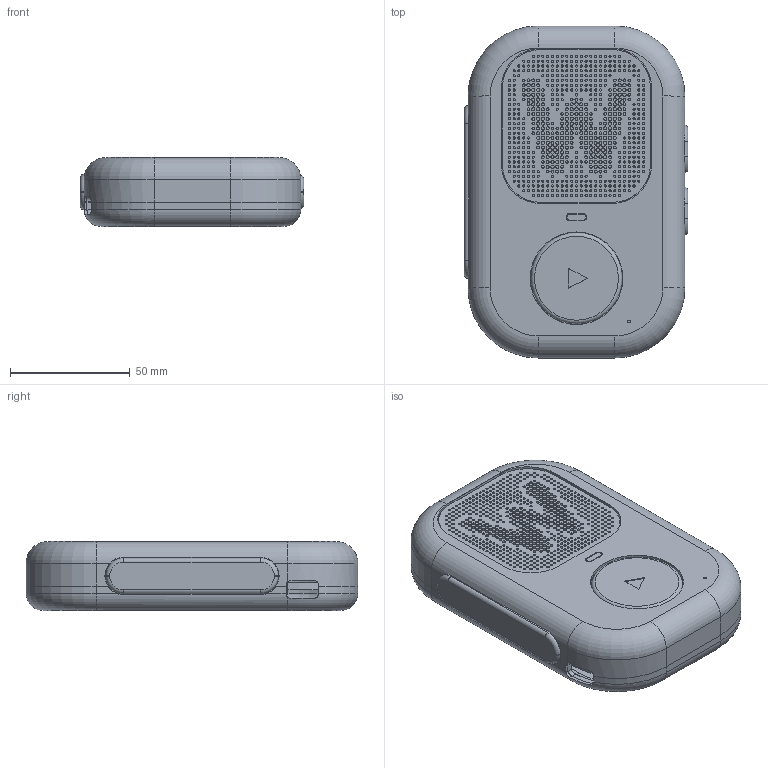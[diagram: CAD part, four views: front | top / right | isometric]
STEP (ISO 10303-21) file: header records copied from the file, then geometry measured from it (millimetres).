
FILE_DESCRIPTION(/* description */ (''),/* implementation_level */ '2;1');
FILE_NAME(/* name */ 'Walkie_One_25_2_R1.step',/* time_stamp */ '2026-09-08T11:10:44-07:00',/* author */ (''),/* organization */ (''),/* preprocessor_version */ 'ST-DEVELOPER v20.1',/* originating_system */ 'Autodesk Translation Framework v15.8.0.0',/* authorisation */ '');
FILE_SCHEMA (('AUTOMOTIVE_DESIGN { 1 0 10303 214 3 1 1 }'));
Length unit declared in the file: centimetre
Products named in the file (15): 2026-09-08-11-10-29-672; 2026-09-08-11-10-29-782; 2026-09-08-11-10-30-391; 2026-09-08-11-10-32-289; 2026-09-08-11-10-32-713; 2026-09-08-11-10-32-897; 2026-09-08-11-10-33-663; 2026-09-08-11-10-33-877; 2026-09-08-11-10-39-665; 2026-09-08-11-10-39-844; 2026-09-08-11-10-40-087; 2026-09-08-11-10-40-640; 2026-09-08-11-10-40-789; 2026-09-08-11-10-41-055; 2026-09-08-11-10-41-421
Assembly tree (14 placements, depth 2):
  2026-09-08-11-10-29-672
    2026-09-08-11-10-29-782
    2026-09-08-11-10-30-391
    2026-09-08-11-10-32-289
    2026-09-08-11-10-32-713
    2026-09-08-11-10-32-897
    2026-09-08-11-10-33-663
    2026-09-08-11-10-33-877
    2026-09-08-11-10-39-665
    2026-09-08-11-10-39-844
    2026-09-08-11-10-40-087
    2026-09-08-11-10-40-640
    2026-09-08-11-10-40-789
    2026-09-08-11-10-41-055
    2026-09-08-11-10-41-421
Bounding box: 93.2 x 138.4 x 28.8 mm (x, y, z)
Volume: 94299.2 mm3; surface area: 130718.7 mm2
Topology: 17 solids, 17 shells, 1509 faces, 4286 edges, 2829 vertices
Faces by surface type: cylinder 938, plane 526, torus 45
Full cylindrical faces by diameter (mm): 0.9 x452, 1.1 x85, 1.2 x2, 1.25 x73, 1.4 x111, 2.4 x2, 3 x1, 4 x1, 38 x1, 38.6 x2, 40.5 x1, 40.6 x1, 41 x1, 43.2 x1
Entity records: 53526 total; most frequent: DIRECTION 9212, CARTESIAN_POINT 9095, ORIENTED_EDGE 8572, EDGE_CURVE 4286, AXIS2_PLACEMENT_3D 3460, EDGE_LOOP 2999, VERTEX_POINT 2829, LINE 2292
